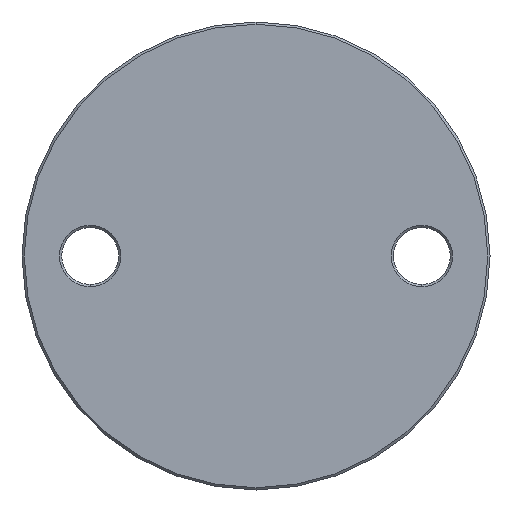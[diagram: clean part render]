
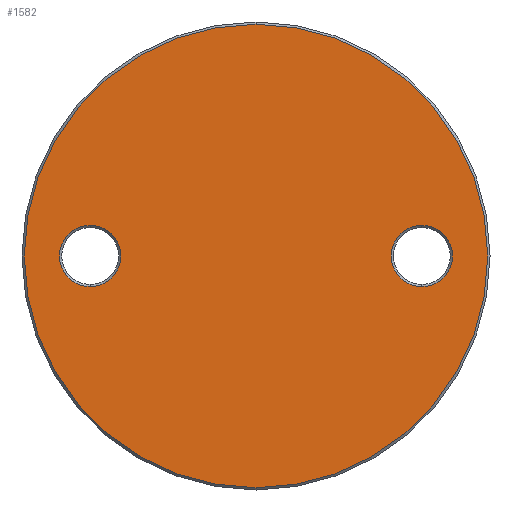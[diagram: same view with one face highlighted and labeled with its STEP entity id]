
A CAD part, front view. The second image highlights one B-rep face of the part: STEP entity #1582.
In plain terms, the highlighted planar face has unit normal (0, -1, 0).
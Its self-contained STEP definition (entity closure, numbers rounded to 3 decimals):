
#38 = DIRECTION ( 'NONE',  ( 0., -1., 0. ) ) ;
#62 = CARTESIAN_POINT ( 'NONE',  ( 36.5, -3., 0. ) ) ;
#124 = DIRECTION ( 'NONE',  ( 0., 1., 0. ) ) ;
#138 = CARTESIAN_POINT ( 'NONE',  ( 0., -3., -51. ) ) ;
#256 = DIRECTION ( 'NONE',  ( 0., -1., 0. ) ) ;
#340 = CIRCLE ( 'NONE', #580, 51. ) ;
#365 = CARTESIAN_POINT ( 'NONE',  ( -36.5, -3., 6.75 ) ) ;
#400 = EDGE_CURVE ( 'NONE', #2298, #1498, #2817, .T. ) ;
#444 = DIRECTION ( 'NONE',  ( 0., 1., 0. ) ) ;
#552 = EDGE_LOOP ( 'NONE', ( #3209, #2195 ) ) ;
#564 = DIRECTION ( 'NONE',  ( 0., 0., -1. ) ) ;
#580 = AXIS2_PLACEMENT_3D ( 'NONE', #2299, #256, #564 ) ;
#696 = CARTESIAN_POINT ( 'NONE',  ( 0., -3., 51.5 ) ) ;
#751 = CARTESIAN_POINT ( 'NONE',  ( 36.5, -3., 6.75 ) ) ;
#839 = DIRECTION ( 'NONE',  ( 0., 0., -1. ) ) ;
#884 = ORIENTED_EDGE ( 'NONE', *, *, #4323, .T. ) ;
#1082 = VERTEX_POINT ( 'NONE', #2099 ) ;
#1088 = CARTESIAN_POINT ( 'NONE',  ( -36.5, -3., 0. ) ) ;
#1149 = AXIS2_PLACEMENT_3D ( 'NONE', #62, #1396, #2745 ) ;
#1169 = CIRCLE ( 'NONE', #2931, 6.75 ) ;
#1211 = CIRCLE ( 'NONE', #1149, 6.75 ) ;
#1233 = AXIS2_PLACEMENT_3D ( 'NONE', #2820, #2144, #2109 ) ;
#1300 = EDGE_CURVE ( 'NONE', #1498, #2298, #340, .T. ) ;
#1366 = PLANE ( 'NONE',  #1537 ) ;
#1389 = ORIENTED_EDGE ( 'NONE', *, *, #2359, .T. ) ;
#1396 = DIRECTION ( 'NONE',  ( 0., 1., 0. ) ) ;
#1498 = VERTEX_POINT ( 'NONE', #1621 ) ;
#1537 = AXIS2_PLACEMENT_3D ( 'NONE', #696, #2439, #3402 ) ;
#1566 = AXIS2_PLACEMENT_3D ( 'NONE', #2058, #38, #2697 ) ;
#1575 = VERTEX_POINT ( 'NONE', #751 ) ;
#1582 = ADVANCED_FACE ( 'NONE', ( #2071, #4021, #3242 ), #1366, .T. ) ;
#1621 = CARTESIAN_POINT ( 'NONE',  ( 0., -3., 51. ) ) ;
#1811 = EDGE_LOOP ( 'NONE', ( #3360, #1389 ) ) ;
#1981 = ORIENTED_EDGE ( 'NONE', *, *, #3857, .T. ) ;
#2033 = VERTEX_POINT ( 'NONE', #365 ) ;
#2058 = CARTESIAN_POINT ( 'NONE',  ( 0., -3., 0. ) ) ;
#2071 = FACE_BOUND ( 'NONE', #3945, .T. ) ;
#2099 = CARTESIAN_POINT ( 'NONE',  ( -36.5, -3., -6.75 ) ) ;
#2109 = DIRECTION ( 'NONE',  ( 0., 0., -1. ) ) ;
#2144 = DIRECTION ( 'NONE',  ( 0., 1., 0. ) ) ;
#2151 = CARTESIAN_POINT ( 'NONE',  ( -36.5, -3., 0. ) ) ;
#2195 = ORIENTED_EDGE ( 'NONE', *, *, #400, .T. ) ;
#2298 = VERTEX_POINT ( 'NONE', #138 ) ;
#2299 = CARTESIAN_POINT ( 'NONE',  ( 0., -3., 0. ) ) ;
#2359 = EDGE_CURVE ( 'NONE', #2033, #1082, #1169, .T. ) ;
#2439 = DIRECTION ( 'NONE',  ( 0., -1., 0. ) ) ;
#2488 = CIRCLE ( 'NONE', #1233, 6.75 ) ;
#2660 = VERTEX_POINT ( 'NONE', #3447 ) ;
#2697 = DIRECTION ( 'NONE',  ( 0., 0., -1. ) ) ;
#2745 = DIRECTION ( 'NONE',  ( 0., 0., -1. ) ) ;
#2817 = CIRCLE ( 'NONE', #1566, 51. ) ;
#2820 = CARTESIAN_POINT ( 'NONE',  ( 36.5, -3., 0. ) ) ;
#2931 = AXIS2_PLACEMENT_3D ( 'NONE', #2151, #124, #839 ) ;
#3112 = CIRCLE ( 'NONE', #3734, 6.75 ) ;
#3209 = ORIENTED_EDGE ( 'NONE', *, *, #1300, .T. ) ;
#3242 = FACE_OUTER_BOUND ( 'NONE', #552, .T. ) ;
#3283 = EDGE_CURVE ( 'NONE', #1082, #2033, #3112, .T. ) ;
#3360 = ORIENTED_EDGE ( 'NONE', *, *, #3283, .T. ) ;
#3402 = DIRECTION ( 'NONE',  ( 0., 0., -1. ) ) ;
#3447 = CARTESIAN_POINT ( 'NONE',  ( 36.5, -3., -6.75 ) ) ;
#3734 = AXIS2_PLACEMENT_3D ( 'NONE', #1088, #444, #4139 ) ;
#3857 = EDGE_CURVE ( 'NONE', #2660, #1575, #2488, .T. ) ;
#3945 = EDGE_LOOP ( 'NONE', ( #1981, #884 ) ) ;
#4021 = FACE_BOUND ( 'NONE', #1811, .T. ) ;
#4139 = DIRECTION ( 'NONE',  ( 0., 0., -1. ) ) ;
#4323 = EDGE_CURVE ( 'NONE', #1575, #2660, #1211, .T. ) ;
